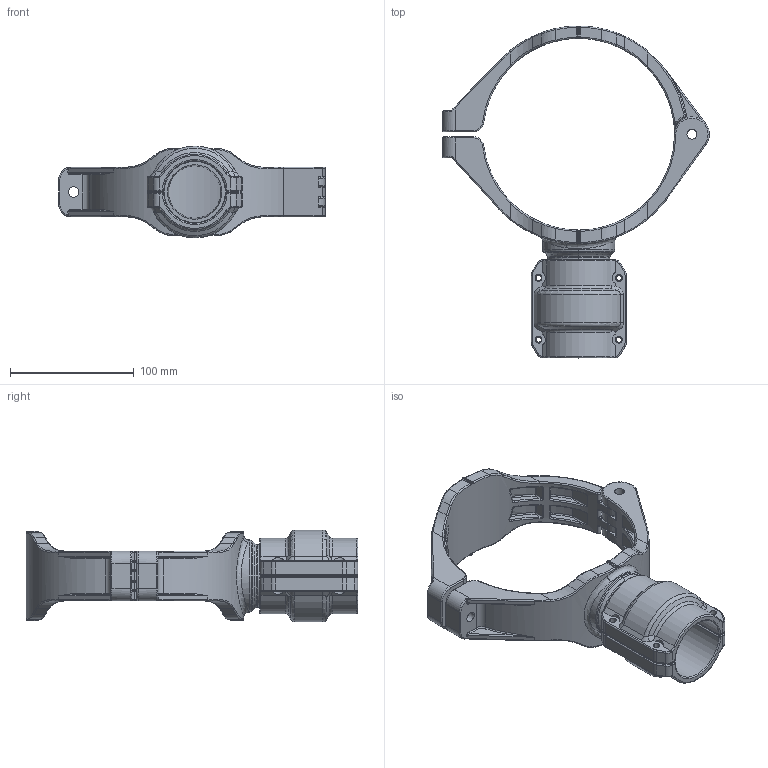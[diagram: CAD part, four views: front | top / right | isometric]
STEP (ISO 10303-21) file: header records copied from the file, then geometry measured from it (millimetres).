
FILE_DESCRIPTION((''),'2;1');
FILE_NAME('2015951099_ASM_3_ASM','2017-05-15T',('Administrator'),(''),'PRO/ENGINEER BY PARAMETRIC TECHNOLOGY CORPORATION, 2009360','PRO/ENGINEER BY PARAMETRIC TECHNOLOGY CORPORATION, 2009360','');
FILE_SCHEMA(('AUTOMOTIVE_DESIGN_CC2 { 1 2 10303 214 -1 1 5 2 }'));
Length unit declared in the file: millimetre
Products named in the file (8): MANIFOLD_SOLID_BREP_95_7_1; MANIFOLD_SOLID_BREP_96_7_1; 2015951000_ASM_2_ASM_1_ASM; 2015951000_ASM_ASM_1_ASM; 201550020001_1; 201550020000_1; 2015500200_ASM_1_ASM; 2015951099_ASM_3_ASM
Assembly tree (7 placements, depth 4):
  2015951099_ASM_3_ASM
    2015951000_ASM_ASM_1_ASM
      2015951000_ASM_2_ASM_1_ASM
        MANIFOLD_SOLID_BREP_95_7_1
        MANIFOLD_SOLID_BREP_96_7_1
    2015500200_ASM_1_ASM
      201550020001_1
      201550020000_1
Bounding box: 215.88 x 268.7 x 74.3 mm (x, y, z)
Volume: 437227.3 mm3; surface area: 135974 mm2
Topology: 4 solids, 4 shells, 1002 faces, 2433 edges, 1353 vertices
Faces by surface type: cylinder 340, bspline 218, torus 216, plane 146, sphere 72, cone 10
Entity records: 53706 total; most frequent: CARTESIAN_POINT 24859, ORIENTED_EDGE 4658, DIRECTION 4457, PRESENTATION_STYLE_ASSIGNMENT 2333, STYLED_ITEM 2333, CURVE_STYLE 2329, EDGE_CURVE 2329, AXIS2_PLACEMENT_3D 1926
